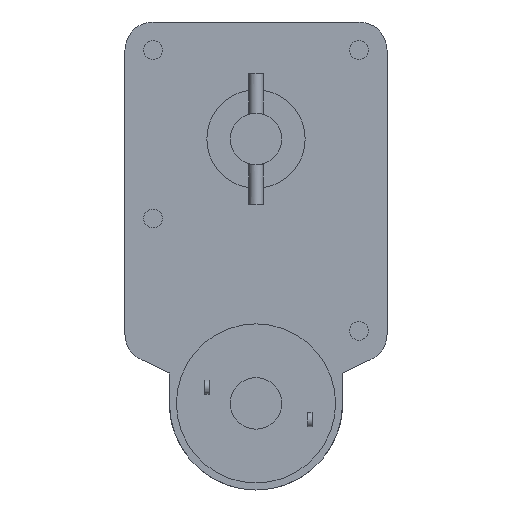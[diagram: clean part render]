
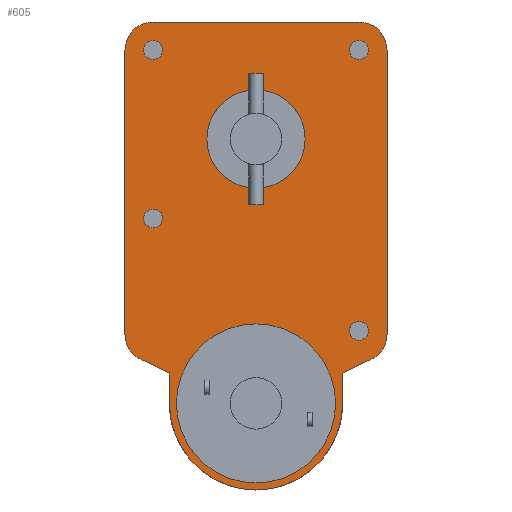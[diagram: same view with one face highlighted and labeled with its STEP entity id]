
A CAD part, front view. The second image highlights one B-rep face of the part: STEP entity #605.
In plain terms, the highlighted planar face has unit normal (0, -1, 0).
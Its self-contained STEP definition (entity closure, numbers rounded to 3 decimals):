
#277=CARTESIAN_POINT('',(38.5,0.0,13.5));
#278=VERTEX_POINT('',#277);
#285=CARTESIAN_POINT('',(1.5,0.0,13.5));
#286=VERTEX_POINT('',#285);
#287=CARTESIAN_POINT('',(20.,0.0,13.5));
#288=DIRECTION('',(0.0,-1.0,0.0));
#289=DIRECTION('',(1.0,0.0,0.0));
#290=AXIS2_PLACEMENT_3D('',#287,#288,#289);
#291=CIRCLE('',#290,18.5);
#292=EDGE_CURVE('',#286,#278,#291,.T.);
#335=CARTESIAN_POINT('',(48.,0.0,28.297));
#336=VERTEX_POINT('',#335);
#343=CARTESIAN_POINT('',(44.569,0.,22.875));
#344=VERTEX_POINT('',#343);
#345=CARTESIAN_POINT('',(42.,0.0,28.297));
#346=DIRECTION('',(0.0,1.0,0.0));
#347=DIRECTION('',(0.845,0.0,-0.535));
#348=AXIS2_PLACEMENT_3D('',#345,#346,#347);
#349=CIRCLE('',#348,6.);
#350=EDGE_CURVE('',#336,#344,#349,.T.);
#368=CARTESIAN_POINT('',(48.,0.0,89.0));
#369=VERTEX_POINT('',#368);
#376=CARTESIAN_POINT('',(48.,0.0,89.0));
#377=DIRECTION('',(0.0,0.0,-1.0));
#378=VECTOR('',#377,60.703);
#379=LINE('',#376,#378);
#380=EDGE_CURVE('',#369,#336,#379,.T.);
#390=CARTESIAN_POINT('',(-4.569,0.,22.875));
#391=VERTEX_POINT('',#390);
#392=CARTESIAN_POINT('',(-8.,0.0,28.297));
#393=VERTEX_POINT('',#392);
#394=CARTESIAN_POINT('',(-2.,0.0,28.297));
#395=DIRECTION('',(0.0,1.0,0.0));
#396=DIRECTION('',(-0.845,0.0,-0.535));
#397=AXIS2_PLACEMENT_3D('',#394,#395,#396);
#398=CIRCLE('',#397,6.0);
#399=EDGE_CURVE('',#391,#393,#398,.T.);
#423=CARTESIAN_POINT('',(-8.,0.0,89.0));
#424=VERTEX_POINT('',#423);
#425=CARTESIAN_POINT('',(-8.,0.0,28.297));
#426=DIRECTION('',(0.0,0.0,1.0));
#427=VECTOR('',#426,60.703);
#428=LINE('',#425,#427);
#429=EDGE_CURVE('',#393,#424,#428,.T.);
#448=CARTESIAN_POINT('',(-2.,0.0,95.0));
#449=VERTEX_POINT('',#448);
#450=CARTESIAN_POINT('',(-2.,0.0,89.0));
#451=DIRECTION('',(0.0,1.0,0.0));
#452=DIRECTION('',(-0.707,0.0,0.707));
#453=AXIS2_PLACEMENT_3D('',#450,#451,#452);
#454=CIRCLE('',#453,6.);
#455=EDGE_CURVE('',#424,#449,#454,.T.);
#472=CARTESIAN_POINT('',(42.,0.0,95.0));
#473=VERTEX_POINT('',#472);
#480=CARTESIAN_POINT('',(42.,0.0,89.0));
#481=DIRECTION('',(0.0,1.0,0.0));
#482=DIRECTION('',(0.707,0.0,0.707));
#483=AXIS2_PLACEMENT_3D('',#480,#481,#482);
#484=CIRCLE('',#483,6.0);
#485=EDGE_CURVE('',#473,#369,#484,.T.);
#491=CARTESIAN_POINT('',(20.,0.0,45.0));
#492=DIRECTION('',(0.0,1.0,0.0));
#493=DIRECTION('',(0.0,0.0,1.0));
#494=AXIS2_PLACEMENT_3D('',#491,#492,#493);
#495=PLANE('',#494);
#496=ORIENTED_EDGE('',*,*,#350,.F.);
#497=ORIENTED_EDGE('',*,*,#380,.F.);
#498=ORIENTED_EDGE('',*,*,#485,.F.);
#499=CARTESIAN_POINT('',(-2.,0.0,95.0));
#500=DIRECTION('',(1.0,0.0,0.0));
#501=VECTOR('',#500,44.);
#502=LINE('',#499,#501);
#503=EDGE_CURVE('',#449,#473,#502,.T.);
#504=ORIENTED_EDGE('',*,*,#503,.F.);
#505=ORIENTED_EDGE('',*,*,#455,.F.);
#506=ORIENTED_EDGE('',*,*,#429,.F.);
#507=ORIENTED_EDGE('',*,*,#399,.F.);
#508=CARTESIAN_POINT('',(1.5,0.0,20.));
#509=VERTEX_POINT('',#508);
#510=CARTESIAN_POINT('',(-4.569,0.,22.875));
#511=DIRECTION('',(0.904,0.0,-0.428));
#512=VECTOR('',#511,6.715);
#513=LINE('',#510,#512);
#514=EDGE_CURVE('',#391,#509,#513,.T.);
#515=ORIENTED_EDGE('',*,*,#514,.T.);
#516=CARTESIAN_POINT('',(1.5,0.0,20.));
#517=DIRECTION('',(0.0,0.0,-1.0));
#518=VECTOR('',#517,6.5);
#519=LINE('',#516,#518);
#520=EDGE_CURVE('',#509,#286,#519,.T.);
#521=ORIENTED_EDGE('',*,*,#520,.T.);
#522=ORIENTED_EDGE('',*,*,#292,.T.);
#523=CARTESIAN_POINT('',(38.5,0.0,20.));
#524=VERTEX_POINT('',#523);
#525=CARTESIAN_POINT('',(38.5,0.0,13.5));
#526=DIRECTION('',(0.0,0.0,1.0));
#527=VECTOR('',#526,6.5);
#528=LINE('',#525,#527);
#529=EDGE_CURVE('',#278,#524,#528,.T.);
#530=ORIENTED_EDGE('',*,*,#529,.T.);
#531=CARTESIAN_POINT('',(38.5,0.,20.));
#532=DIRECTION('',(0.904,0.0,0.428));
#533=VECTOR('',#532,6.715);
#534=LINE('',#531,#533);
#535=EDGE_CURVE('',#524,#344,#534,.T.);
#536=ORIENTED_EDGE('',*,*,#535,.T.);
#537=EDGE_LOOP('',(#496,#497,#498,#504,#505,#506,#507,#515,#521,#522,#530,#536));
#538=FACE_OUTER_BOUND('',#537,.T.);
#539=CARTESIAN_POINT('',(44.,0.0,29.));
#540=VERTEX_POINT('',#539);
#541=CARTESIAN_POINT('',(42.,0.0,29.));
#542=DIRECTION('',(0.0,1.0,0.0));
#543=DIRECTION('',(-1.0,0.0,0.0));
#544=AXIS2_PLACEMENT_3D('',#541,#542,#543);
#545=CIRCLE('',#544,2.);
#546=EDGE_CURVE('',#540,#540,#545,.T.);
#547=ORIENTED_EDGE('',*,*,#546,.T.);
#548=EDGE_LOOP('',(#547));
#549=FACE_BOUND('',#548,.T.);
#550=CARTESIAN_POINT('',(0.,0.0,53.));
#551=VERTEX_POINT('',#550);
#552=CARTESIAN_POINT('',(-2.,0.0,53.));
#553=DIRECTION('',(0.0,1.0,0.0));
#554=DIRECTION('',(-1.0,0.0,0.0));
#555=AXIS2_PLACEMENT_3D('',#552,#553,#554);
#556=CIRCLE('',#555,2.);
#557=EDGE_CURVE('',#551,#551,#556,.T.);
#558=ORIENTED_EDGE('',*,*,#557,.T.);
#559=EDGE_LOOP('',(#558));
#560=FACE_BOUND('',#559,.T.);
#561=CARTESIAN_POINT('',(44.,0.0,89.0));
#562=VERTEX_POINT('',#561);
#563=CARTESIAN_POINT('',(42.,0.0,89.0));
#564=DIRECTION('',(0.0,1.0,0.0));
#565=DIRECTION('',(-1.0,0.0,0.0));
#566=AXIS2_PLACEMENT_3D('',#563,#564,#565);
#567=CIRCLE('',#566,2.0);
#568=EDGE_CURVE('',#562,#562,#567,.T.);
#569=ORIENTED_EDGE('',*,*,#568,.T.);
#570=EDGE_LOOP('',(#569));
#571=FACE_BOUND('',#570,.T.);
#572=CARTESIAN_POINT('',(0.,0.0,89.0));
#573=VERTEX_POINT('',#572);
#574=CARTESIAN_POINT('',(-2.,0.0,89.0));
#575=DIRECTION('',(0.0,1.0,0.0));
#576=DIRECTION('',(-1.0,0.0,0.0));
#577=AXIS2_PLACEMENT_3D('',#574,#575,#576);
#578=CIRCLE('',#577,2.0);
#579=EDGE_CURVE('',#573,#573,#578,.T.);
#580=ORIENTED_EDGE('',*,*,#579,.T.);
#581=EDGE_LOOP('',(#580));
#582=FACE_BOUND('',#581,.T.);
#583=CARTESIAN_POINT('',(30.5,0.0,70.0));
#584=VERTEX_POINT('',#583);
#585=CARTESIAN_POINT('',(20.,0.0,70.0));
#586=DIRECTION('',(0.0,1.0,0.0));
#587=DIRECTION('',(-1.0,0.0,0.0));
#588=AXIS2_PLACEMENT_3D('',#585,#586,#587);
#589=CIRCLE('',#588,10.5);
#590=EDGE_CURVE('',#584,#584,#589,.T.);
#591=ORIENTED_EDGE('',*,*,#590,.T.);
#592=EDGE_LOOP('',(#591));
#593=FACE_BOUND('',#592,.T.);
#594=CARTESIAN_POINT('',(37.,0.0,13.5));
#595=VERTEX_POINT('',#594);
#596=CARTESIAN_POINT('',(20.,0.0,13.5));
#597=DIRECTION('',(0.0,1.0,0.0));
#598=DIRECTION('',(-1.0,0.0,0.0));
#599=AXIS2_PLACEMENT_3D('',#596,#597,#598);
#600=CIRCLE('',#599,17.0);
#601=EDGE_CURVE('',#595,#595,#600,.T.);
#602=ORIENTED_EDGE('',*,*,#601,.T.);
#603=EDGE_LOOP('',(#602));
#604=FACE_BOUND('',#603,.T.);
#605=ADVANCED_FACE('',(#538,#549,#560,#571,#582,#593,#604),#495,.F.);
